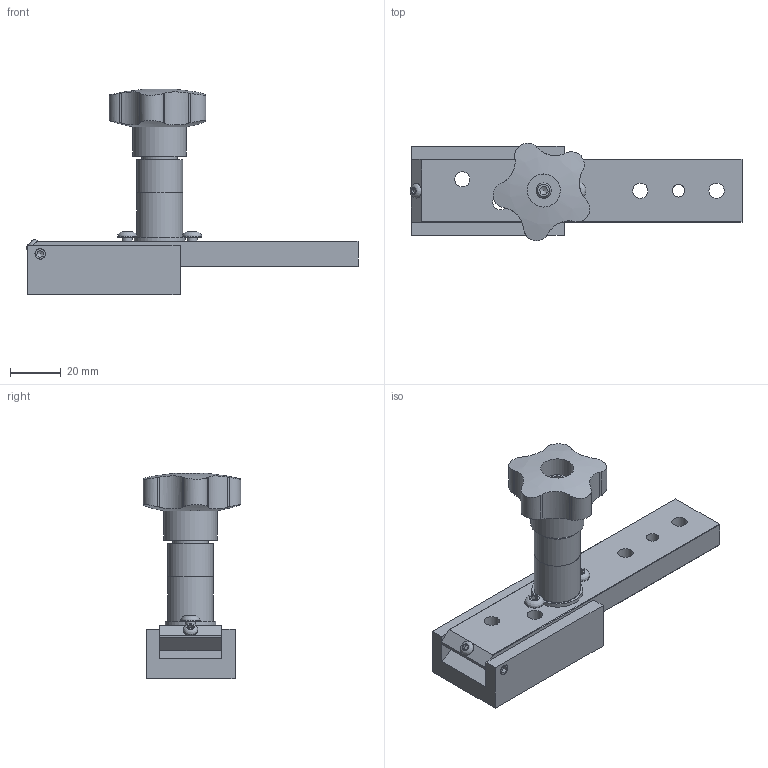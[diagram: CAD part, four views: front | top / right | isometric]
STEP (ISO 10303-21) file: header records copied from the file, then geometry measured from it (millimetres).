
FILE_DESCRIPTION(/* description */ (''),/* implementation_level */ '2;1');
FILE_NAME(/* name */ 'C:\Local Work Area\Progetti\AP\CALIBRI\255.00 RIBALTABILE LARG=25\255.00.stp',/* time_stamp */ '2021-03-09T13:46:42+01:00',/* author */ ('CAD5'),/* organization */ (''),/* preprocessor_version */ 'ST-DEVELOPER v18.1',/* originating_system */ 'Autodesk Inventor 2021',/* authorisation */ '');
FILE_SCHEMA (('AUTOMOTIVE_DESIGN { 1 0 10303 214 3 1 1 }'));
Length unit declared in the file: millimetre
Products named in the file (15): 255.00; 255.01; 255.02; 02.33; 255.00_ass manopola; 02.12; Manopola mecanoplastica 12010250; 02.10; 255.03.01; 255.03; UNI 5923 - M6 x 1 x 25; Vite STEI M6x50 UNI 5923; UNI 5923 - M5 x 0,8 x 10; UNI ISO 7380 - M4 x 8; Copia di ISO 7380 - M3 x 6
Assembly tree (16 placements, depth 4):
  255.00
    255.01
    255.02
    02.33
    255.00_ass manopola
      02.12
      Manopola mecanoplastica 12010250
      02.10
      255.03.01
        255.03
        UNI 5923 - M6 x 1 x 25
        Vite STEI M6x50 UNI 5923
    UNI 5923 - M5 x 0,8 x 10  x2
    UNI ISO 7380 - M4 x 8  x2
    Copia di ISO 7380 - M3 x 6
Bounding box: 130.58 x 38.33 x 80.71 mm (x, y, z)
Volume: 79362.1 mm3; surface area: 34914.4 mm2
Topology: 14 solids, 14 shells, 204 faces, 489 edges, 325 vertices
Faces by surface type: plane 111, cylinder 58, cone 24, bspline 6, torus 5
Full cylindrical faces by diameter (mm): 2.459 x1, 3 x1, 3.242 x2, 4 x2, 4.134 x2, 4.9 x1, 4.917 x5, 5 x2, 5.7 x1, 6 x11, 7.6 x2, 10 x1, 10.5 x3, 12 x2, 12.5 x1, 13 x1, 14 x2, 17 x2, 18 x2, 20 x1, 21 x1
Entity records: 6925 total; most frequent: CARTESIAN_POINT 2268, DIRECTION 875, ORIENTED_EDGE 836, EDGE_CURVE 418, AXIS2_PLACEMENT_3D 337, VERTEX_POINT 281, EDGE_LOOP 235, LINE 201
